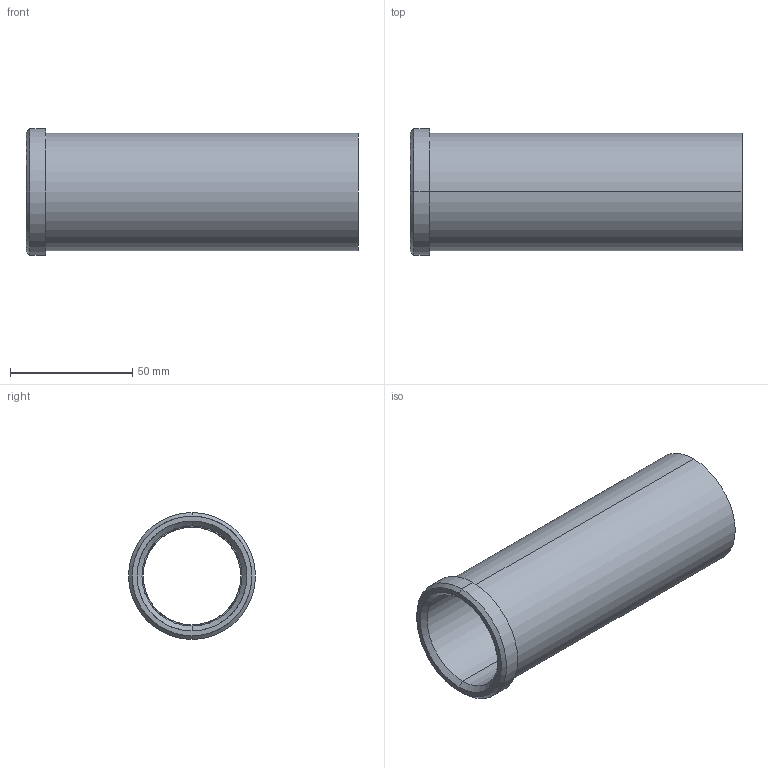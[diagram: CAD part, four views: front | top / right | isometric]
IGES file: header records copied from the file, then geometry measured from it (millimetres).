
Start section: START RECORD GO HERE.
Global section: file name: 353-40X136.igs; native system: DASSAULT SYSTEMES CATIA V5 R20 - www.3ds.com; preprocessor: CATIA Version 5 Release 20 ; author: Utente; organization: NB04-ASUS; date: 20210513.201914; units: millimetre
Bounding box: 136 x 52 x 52 mm (x, y, z)
Surface area: 39210.9 mm2 (no closed solid volume)
Topology: 0 solids, 0 shells, 18 faces, 116 edges, 116 vertices
Faces by surface type: revolution 14, plane 4
